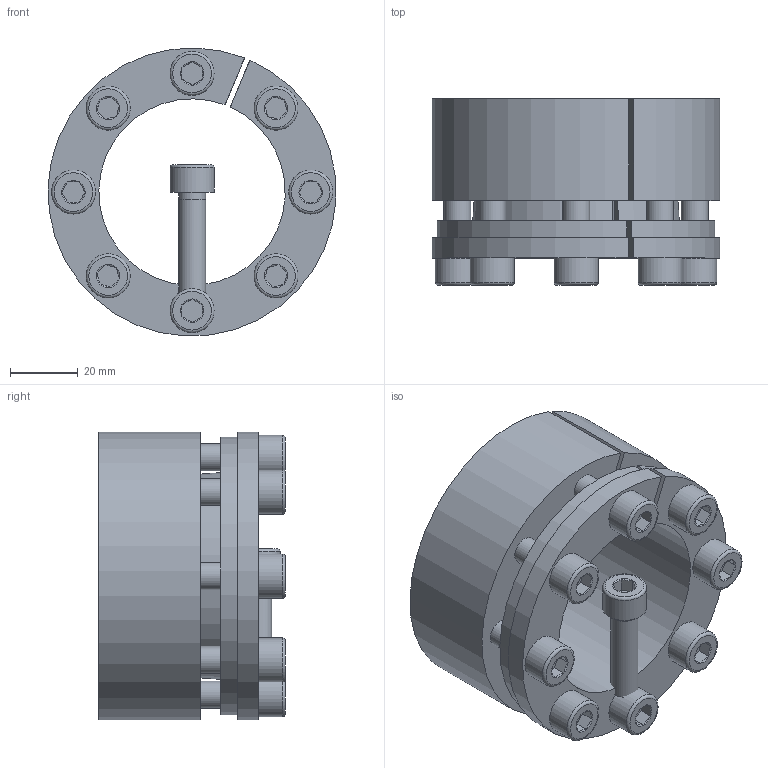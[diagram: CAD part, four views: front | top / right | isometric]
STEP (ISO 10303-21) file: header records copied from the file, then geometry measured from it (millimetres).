
FILE_DESCRIPTION( ( 'Unknown' ), '1' );
FILE_NAME( 'C:/Dokumente und Einstellungen/Sven/Desktop/homepage/cad - homepage/KBS70/KBS 70 - 55 x 85.stp', 'Unknown', ( 'Unknown' ), ( 'Unknown' ), 'XStep 1.0', 'Unknown', ' ' );
FILE_SCHEMA( ( 'automotive_design' ) );
Length unit declared in the file: millimetre
Products named in the file (3): Assem1; KBS 70 - 55 x 85; ISO EN DIN 4762 M8x30
Bounding box: 84.91 x 55 x 84.94 mm (x, y, z)
Volume: 258839.6 mm3; surface area: 92884.2 mm2
Topology: 11 solids, 11 shells, 285 faces, 583 edges, 356 vertices
Faces by surface type: plane 124, cylinder 76, cone 67, torus 18
Full cylindrical faces by diameter (mm): 7 x9, 8 x50, 13 x9
Entity records: 1882 total; most frequent: CARTESIAN_POINT 305, DIRECTION 284, ORIENTED_EDGE 206, AXIS2_PLACEMENT_3D 126, EDGE_LOOP 114, EDGE_CURVE 103, VERTEX_POINT 79, FACE_OUTER_BOUND 77
